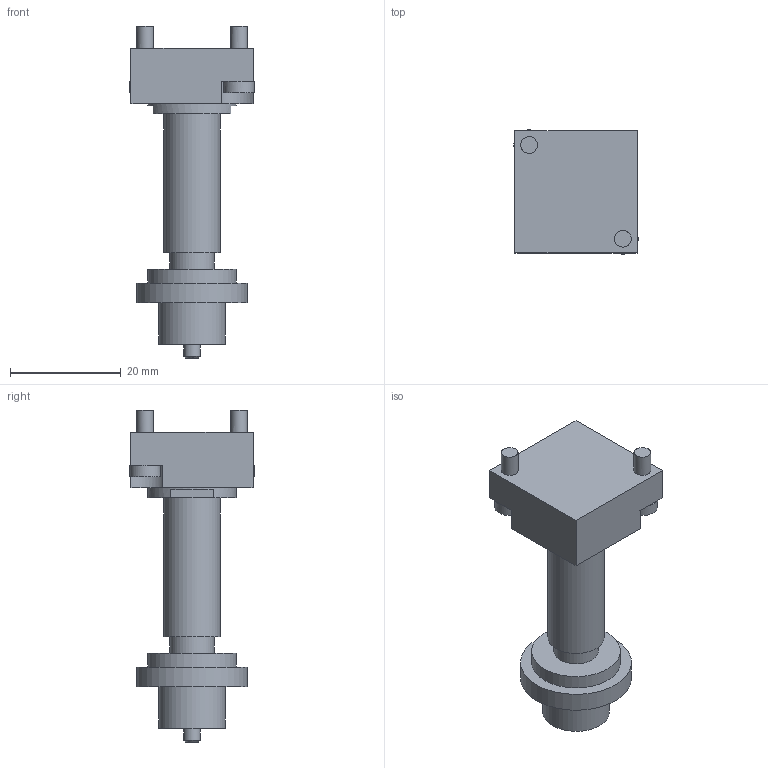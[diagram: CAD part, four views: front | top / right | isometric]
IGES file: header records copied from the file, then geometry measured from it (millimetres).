
Global section: file name: MM7; native system: Autodesk Inventor 2014; preprocessor: unknown; author: A. Manieri; organization: Pneumax S.p.A.; date: 20161003.114018; units: millimetre
Bounding box: 22.4 x 22.4 x 59.85 mm (x, y, z)
Volume: 9595.4 mm3; surface area: 4161 mm2
Topology: 1 solids, 1 shells, 48 faces, 113 edges, 76 vertices
Faces by surface type: bspline 48
